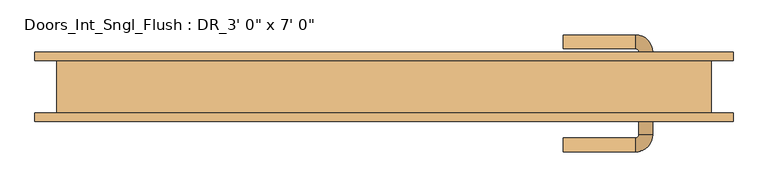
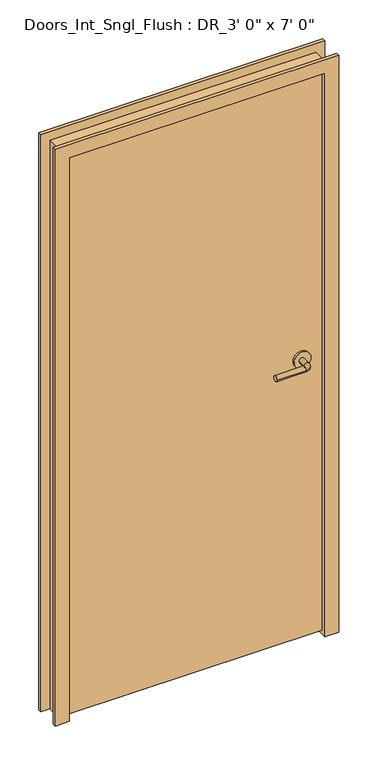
"""IFC4 building model written with IfcOpenShell, lengths in millimetres: door geometry."""

from ifc_helpers import new_model, si_unit, point, frame, frame_2d, origin, place, context, project, spatial, polyline, circle_curve, ellipse_curve, trimmed, segment, composite_curve, outline, extrude, faceted_brep, source, transform, mapped, element, save
from ifc_brep_helpers import plane_surface, cylinder_surface, revolved_surface, advanced_brep


def door_839037fd(model_context):
    return source(origin(), model_context, "Body", "SolidModel", [
        advanced_brep(
        [(391.0, 20.7, 1066.8), (371.0, 20.7, 1066.8), (371.0, 50.7, 1066.8), (391.0, 50.7, 1066.8), (366.0, 55.7, 1066.8), (366.0, 75.7, 1066.8), (261.0, 75.7, 1066.8), (261.0, 55.7, 1066.8)],
        [
            (0, 1, circle_curve(frame((381.0, 20.7, 1066.8), z_axis=(0.0, -1.0, 0.0), x_axis=(-1.0, 0.0, 0.0)), 10.0)),
            (1, 0, circle_curve(frame((381.0, 20.7, 1066.8), z_axis=(0.0, -1.0, 0.0), x_axis=(-1.0, 0.0, 0.0)), 10.0)),
            (1, 2),
            (2, 3, circle_curve(frame((381.0, 50.7, 1066.8), z_axis=(0.0, -1.0, 0.0), x_axis=(-1.0, 0.0, 0.0)), 10.0)),
            (3, 0),
            (3, 2, circle_curve(frame((381.0, 50.7, 1066.8), z_axis=(0.0, -1.0, 0.0), x_axis=(-1.0, 0.0, 0.0)), 10.0)),
            (4, 5, circle_curve(frame((366.0, 65.7, 1066.8), z_axis=(1.0, 0.0, 0.0), x_axis=(0.0, -1.0, 0.0)), 10.0)),
            (5, 3, circle_curve(frame((366.0, 50.7, 1066.8), z_axis=(0.0, 0.0, -1.0), x_axis=(1.0, 0.0, 0.0)), 25.0)),
            (2, 4, circle_curve(frame((366.0, 50.7, 1066.8), z_axis=(0.0, 0.0, 1.0), x_axis=(1.0, 0.0, 0.0)), 5.0)),
            (5, 4, circle_curve(frame((366.0, 65.7, 1066.8), z_axis=(1.0, 0.0, 0.0), x_axis=(0.0, -1.0, 0.0)), 10.0)),
            (6, 7, circle_curve(frame((261.0, 65.7, 1066.8), z_axis=(-1.0, 0.0, 0.0), x_axis=(0.0, -1.0, 0.0)), 10.0)),
            (7, 6, circle_curve(frame((261.0, 65.7, 1066.8), z_axis=(-1.0, 0.0, 0.0), x_axis=(0.0, -1.0, 0.0)), 10.0)),
            (4, 7),
            (6, 5),
        ],
        [
            plane_surface(frame((381.0, 20.7, 1066.8), z_axis=(0.0, -1.0, 0.0), x_axis=(0.0, 0.0, 1.0))),
            cylinder_surface(frame((381.0, 20.7, 1066.8), z_axis=(0.0, -1.0, 0.0), x_axis=(-1.0, 0.0, 0.0)), 10.0),
            revolved_surface(trimmed(ellipse_curve(frame((381.0, 50.7, 1066.8), z_axis=(0.0, 1.0, 0.0), x_axis=(-1.0, 0.0, 0.0)), 10.0, 10.0), [point((391.0, 50.7, 1066.8))], [point((371.0, 50.7, 1066.8))], True, "CARTESIAN"), (366.0, 50.7, 1066.8), (0.0, 0.0, -1.0)),
            revolved_surface(trimmed(ellipse_curve(frame((381.0, 50.7, 1066.8), z_axis=(0.0, 1.0, 0.0), x_axis=(-1.0, 0.0, 0.0)), 10.0, 10.0), [point((371.0, 50.7, 1066.8))], [point((391.0, 50.7, 1066.8))], True, "CARTESIAN"), (366.0, 50.7, 1066.8), (0.0, 0.0, -1.0)),
            plane_surface(frame((261.0, 65.7, 1066.8), z_axis=(-1.0, 0.0, 0.0), x_axis=(0.0, 0.0, 1.0))),
            cylinder_surface(frame((366.0, 65.7, 1066.8), z_axis=(1.0, 0.0, 0.0), x_axis=(0.0, -1.0, 0.0)), 10.0),
        ],
        [
            (0, [[1, 2]]),
            (1, [[3, 4, 5, -2]]),
            (1, [[-5, 6, -3, -1]]),
            (2, [[7, 8, -4, 9]]),
            (3, [[10, -9, -6, -8]]),
            (4, [[11, 12]]),
            (5, [[13, -11, 14, -7]]),
            (5, [[-14, -12, -13, -10]]),
        ],
    ),
        extrude(outline(composite_curve([segment(trimmed(circle_curve(frame_2d((1066.8, 383.5)), 30.0), [point((1066.8, 413.5))], [point((1066.8, 353.5))], False, "CARTESIAN"), True, "CONTINUOUS"), segment(trimmed(circle_curve(frame_2d((1066.8, 383.5)), 30.0), [point((1066.8, 353.5))], [point((1066.8, 413.5))], False, "CARTESIAN"), True, "CONTINUOUS")], self_intersect=False)), frame((0.0, 12.7, 0.0), z_axis=(0.0, 1.0, 0.0), x_axis=(0.0, 0.0, 1.0)), (0.0, 0.0, 1.0), 8.0),
        advanced_brep(
        [(391.0, -39.75, 1066.8), (371.0, -39.75, 1066.8), (391.0, -69.75, 1066.8), (371.0, -69.75, 1066.8), (366.0, -74.75, 1066.8), (366.0, -94.75, 1066.8), (261.0, -94.75, 1066.8), (261.0, -74.75, 1066.8)],
        [
            (0, 1, circle_curve(frame((381.0, -39.75, 1066.8), z_axis=(0.0, 1.0, 0.0), x_axis=(-1.0, 0.0, 0.0)), 10.0)),
            (1, 0, circle_curve(frame((381.0, -39.75, 1066.8), z_axis=(0.0, 1.0, 0.0), x_axis=(-1.0, 0.0, 0.0)), 10.0)),
            (0, 2),
            (2, 3, circle_curve(frame((381.0, -69.75, 1066.8), z_axis=(0.0, 1.0, 0.0), x_axis=(-1.0, 0.0, 0.0)), 10.0)),
            (3, 1),
            (3, 2, circle_curve(frame((381.0, -69.75, 1066.8), z_axis=(0.0, 1.0, 0.0), x_axis=(-1.0, 0.0, 0.0)), 10.0)),
            (4, 3, circle_curve(frame((366.0, -69.75, 1066.8), z_axis=(0.0, 0.0, 1.0), x_axis=(1.0, 0.0, 0.0)), 5.0)),
            (2, 5, circle_curve(frame((366.0, -69.75, 1066.8), z_axis=(0.0, 0.0, -1.0), x_axis=(1.0, 0.0, 0.0)), 25.0)),
            (5, 4, circle_curve(frame((366.0, -84.75, 1066.8), z_axis=(1.0, 0.0, 0.0), x_axis=(0.0, 1.0, 0.0)), 10.0)),
            (4, 5, circle_curve(frame((366.0, -84.75, 1066.8), z_axis=(1.0, 0.0, 0.0), x_axis=(0.0, 1.0, 0.0)), 10.0)),
            (6, 7, circle_curve(frame((261.0, -84.75, 1066.8), z_axis=(-1.0, 0.0, 0.0), x_axis=(0.0, 1.0, 0.0)), 10.0)),
            (7, 6, circle_curve(frame((261.0, -84.75, 1066.8), z_axis=(-1.0, 0.0, 0.0), x_axis=(0.0, 1.0, 0.0)), 10.0)),
            (5, 6),
            (7, 4),
        ],
        [
            plane_surface(frame((381.0, -39.75, 1066.8), z_axis=(0.0, 1.0, 0.0), x_axis=(0.0, 0.0, 1.0))),
            cylinder_surface(frame((381.0, -39.75, 1066.8), z_axis=(0.0, 1.0, 0.0), x_axis=(-1.0, 0.0, 0.0)), 10.0),
            revolved_surface(trimmed(ellipse_curve(frame((381.0, -69.75, 1066.8), z_axis=(0.0, 1.0, 0.0), x_axis=(-1.0, 0.0, 0.0)), 10.0, 10.0), [point((391.0, -69.75, 1066.8))], [point((371.0, -69.75, 1066.8))], True, "CARTESIAN"), (366.0, -69.75, 1066.8), (0.0, 0.0, -1.0)),
            revolved_surface(trimmed(ellipse_curve(frame((381.0, -69.75, 1066.8), z_axis=(0.0, 1.0, 0.0), x_axis=(-1.0, 0.0, 0.0)), 10.0, 10.0), [point((371.0, -69.75, 1066.8))], [point((391.0, -69.75, 1066.8))], True, "CARTESIAN"), (366.0, -69.75, 1066.8), (0.0, 0.0, -1.0)),
            plane_surface(frame((261.0, -84.75, 1066.8), z_axis=(-1.0, 0.0, 0.0), x_axis=(0.0, 0.0, 1.0))),
            cylinder_surface(frame((366.0, -84.75, 1066.8), z_axis=(1.0, 0.0, 0.0), x_axis=(0.0, 1.0, 0.0)), 10.0),
        ],
        [
            (0, [[1, 2]]),
            (1, [[-1, 3, 4, 5]]),
            (1, [[-2, -5, 6, -3]]),
            (2, [[7, -4, 8, 9]]),
            (3, [[-8, -6, -7, 10]]),
            (4, [[11, 12]]),
            (5, [[-9, 13, -12, 14]]),
            (5, [[-10, -14, -11, -13]]),
        ],
    ),
        extrude(outline(composite_curve([segment(trimmed(circle_curve(frame_2d((1066.8, 383.5)), 30.0), [point((1066.8, 413.5))], [point((1066.8, 353.5))], False, "CARTESIAN"), True, "CONTINUOUS"), segment(trimmed(circle_curve(frame_2d((1066.8, 383.5)), 30.0), [point((1066.8, 353.5))], [point((1066.8, 413.5))], False, "CARTESIAN"), True, "CONTINUOUS")], self_intersect=False)), frame((0.0, -39.75, 0.0), z_axis=(0.0, 1.0, 0.0), x_axis=(0.0, 0.0, 1.0)), (0.0, 0.0, 1.0), 8.0),
        extrude(outline(polyline([(-457.2, 12.7), (457.2, 12.7), (457.2, -31.75), (-457.2, -31.75), (-457.2, 12.7)])), frame((0.0, 0.0, 12.7), z_axis=(0.0, 0.0, 1.0), x_axis=(1.0, 0.0, 0.0)), (0.0, 0.0, 1.0), 2120.9),
        faceted_brep([(-457.2, -50.8, 0.0), (-508.0, -50.8, 0.0), (-508.0, -38.1, 0.0), (-476.25, -38.1, 0.0), (-476.25, 38.1, 0.0), (-508.0, 38.1, 0.0), (-508.0, 50.8, 0.0), (-457.2, 50.8, 0.0), (-457.2, -50.8, 2133.6), (457.2, -50.8, 2133.6), (457.2, -50.8, 0.0), (508.0, -50.8, 0.0), (508.0, -50.8, 2184.4), (-508.0, -50.8, 2184.4), (-508.0, -38.1, 2184.4), (508.0, -38.1, 2184.4), (508.0, -38.1, 0.0), (476.25, -38.1, 0.0), (476.25, -38.1, 2152.65), (-476.25, -38.1, 2152.65), (-476.25, 38.1, 2152.65), (476.25, 38.1, 2152.65), (476.25, 38.1, 0.0), (508.0, 38.1, 0.0), (508.0, 38.1, 2184.4), (-508.0, 38.1, 2184.4), (-508.0, 50.8, 2184.4), (508.0, 50.8, 2184.4), (508.0, 50.8, 0.0), (457.2, 50.8, 0.0), (457.2, 50.8, 2133.6), (-457.2, 50.8, 2133.6)], [[[0, 1, 2, 3, 4, 5, 6, 7]], [[1, 0, 8, 9, 10, 11, 12, 13]], [[2, 1, 13, 14]], [[3, 2, 14, 15, 16, 17, 18, 19]], [[4, 3, 19, 20]], [[5, 4, 20, 21, 22, 23, 24, 25]], [[6, 5, 25, 26]], [[7, 6, 26, 27, 28, 29, 30, 31]], [[0, 7, 31, 8]], [[9, 30, 29, 10]], [[10, 29, 28, 23, 22, 17, 16, 11]], [[15, 12, 11, 16]], [[27, 24, 23, 28]], [[21, 18, 17, 22]], [[20, 19, 18, 21]], [[8, 31, 30, 9]], [[14, 13, 12, 15]], [[26, 25, 24, 27]]]),
    ])


if __name__ == "__main__":
    model = new_model("IFC4")
    model_context = context("Model", 3, world=origin())
    ifc_project = project(units=[si_unit("LENGTHUNIT", "METRE", prefix="MILLI")], contexts=[model_context])
    site = spatial("IfcSite", under=ifc_project)
    building = spatial("IfcBuilding", under=site)
    placement = place(None, origin())
    door_shape = door_839037fd(model_context)
    element("IfcDoor", 1, ObjectType="Doors_Int_Sngl_Flush : DR_3' 0\" x 7' 0\"", at=placement, inside=building, context=model_context, shape_type="MappedRepresentation", body=[
        mapped(door_shape, transform((0.0, 0.0, 0.0), x_axis=(1.0, 0.0, 0.0), y_axis=(0.0, 1.0, 0.0), z_axis=(0.0, 0.0, 1.0))),
    ])
    save(model, "model.ifc")
